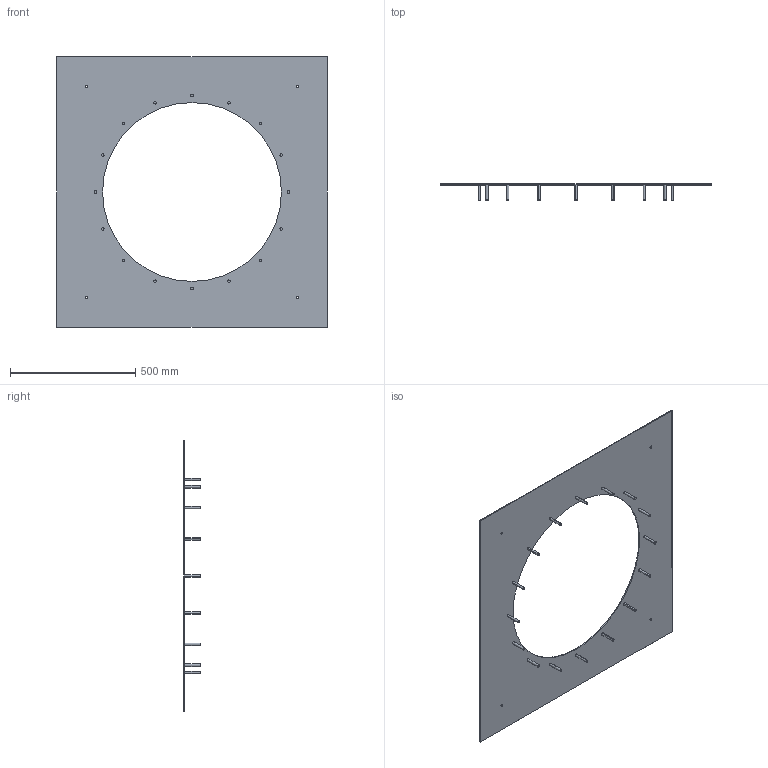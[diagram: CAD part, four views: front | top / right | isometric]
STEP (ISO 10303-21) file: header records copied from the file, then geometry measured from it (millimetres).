
FILE_DESCRIPTION(('STEP AP214'),'1');
FILE_NAME('accessory_5136827200.stp','2017-10-10T13:28:59',('TraceParts'),('TraceParts S.A.'),'Spatial InterOp 3D',' ',' ');
FILE_SCHEMA(('automotive_design'));
Length unit declared in the file: millimetre
Products named in the file (1): accessory_5136827200
Bounding box: 1079 x 64 x 1079 mm (x, y, z)
Volume: 3134017.3 mm3; surface area: 1586195.3 mm2
Topology: 1 solids, 1 shells, 64 faces, 138 edges, 92 vertices
Faces by surface type: cylinder 42, plane 22
Entity records: 2334 total; most frequent: DIRECTION 352, CARTESIAN_POINT 295, ORIENTED_EDGE 276, AXIS2_PLACEMENT_3D 149, EDGE_CURVE 138, VERTEX_POINT 92, EDGE_LOOP 90, CIRCLE 84
